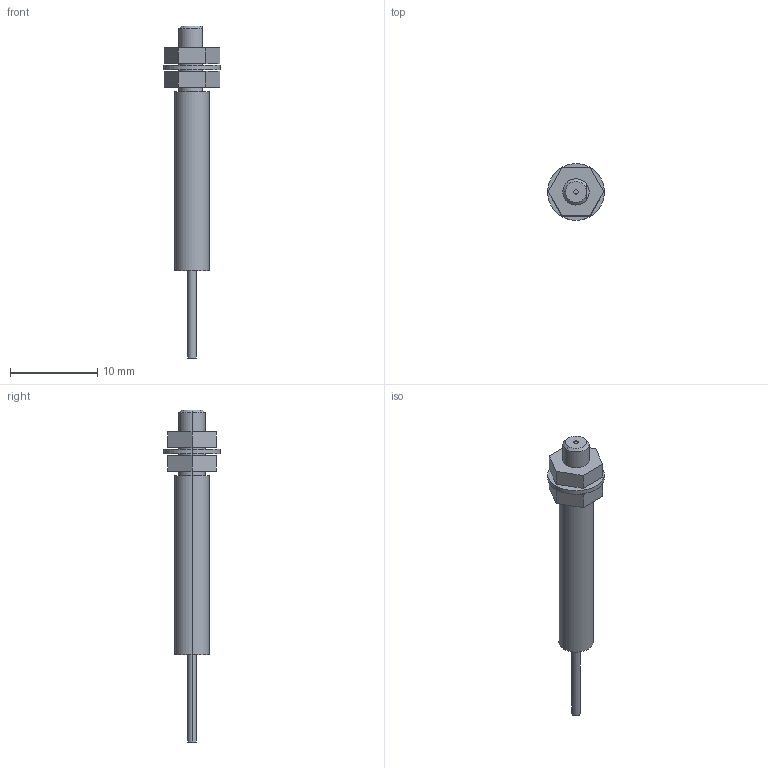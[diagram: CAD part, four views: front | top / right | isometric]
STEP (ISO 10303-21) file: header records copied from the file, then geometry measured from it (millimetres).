
FILE_DESCRIPTION (( 'STEP AP203' ), '1' );
FILE_NAME ('FT-P40.STEP', '2005-09-08T15:14:46', ( ' ' ), ( ' ' ), 'SwSTEP 2.0', 'SolidWorks 2004073', '' );
FILE_SCHEMA (( 'CONFIG_CONTROL_DESIGN' ));
Length unit declared in the file: millimetre
Products named in the file (1): FT-P40
Bounding box: 6.5 x 6.5 x 38 mm (x, y, z)
Volume: 396.4 mm3; surface area: 638 mm2
Topology: 4 solids, 4 shells, 45 faces, 98 edges, 64 vertices
Faces by surface type: plane 25, cylinder 18, cone 2
Entity records: 1327 total; most frequent: DIRECTION 226, CARTESIAN_POINT 218, ORIENTED_EDGE 196, EDGE_CURVE 98, AXIS2_PLACEMENT_3D 84, VERTEX_POINT 64, LINE 58, VECTOR 58
